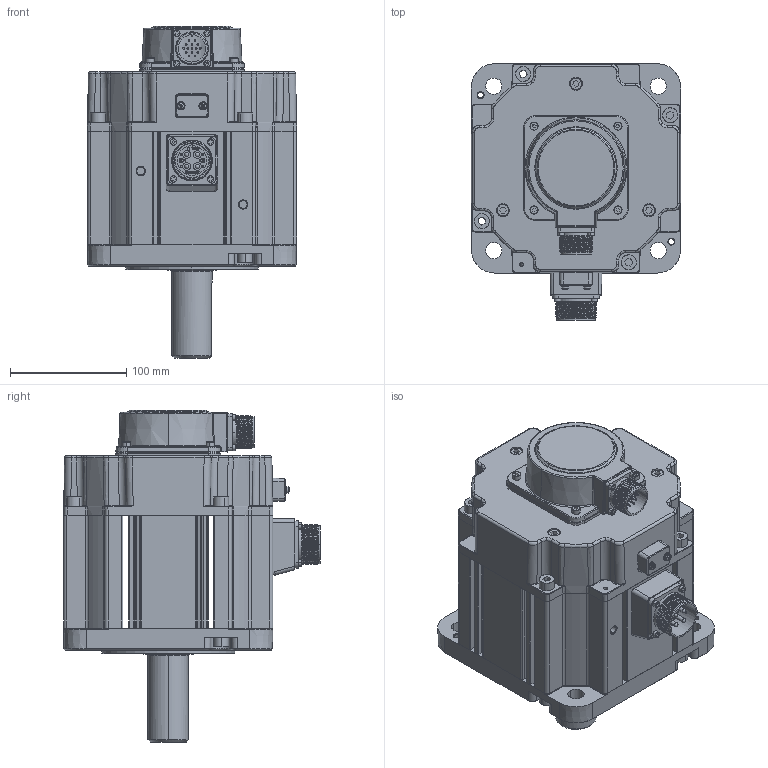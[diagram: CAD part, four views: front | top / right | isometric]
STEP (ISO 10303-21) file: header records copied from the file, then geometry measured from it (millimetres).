
FILE_DESCRIPTION (( 'STEP AP203' ), '1' );
FILE_NAME ('MS6G-180CN15BZ2-43P0.STEP', '2023-12-29T03:01:44', ( '' ), ( '' ), 'SwSTEP 2.0', 'SolidWorks 2022', '' );
FILE_SCHEMA (( 'CONFIG_CONTROL_DESIGN' ));
Products named in the file (1): MS6G-180CN15BZ2-43P0
Bounding box: 180 x 220.9 x 285.5 mm (x, y, z)
Surface area: 255572.4 mm2 (no closed solid volume)
Topology: 0 solids, 87 shells, 1521 faces, 4835 edges, 3338 vertices
Faces by surface type: plane 506, cylinder 458, bspline 266, torus 134, cone 110, sphere 47
Entity records: 74166 total; most frequent: CARTESIAN_POINT 34188, DIRECTION 7940, ORIENTED_EDGE 7850, EDGE_CURVE 4785, VERTEX_POINT 3338, AXIS2_PLACEMENT_3D 2842, VECTOR 2256, LINE 2256
